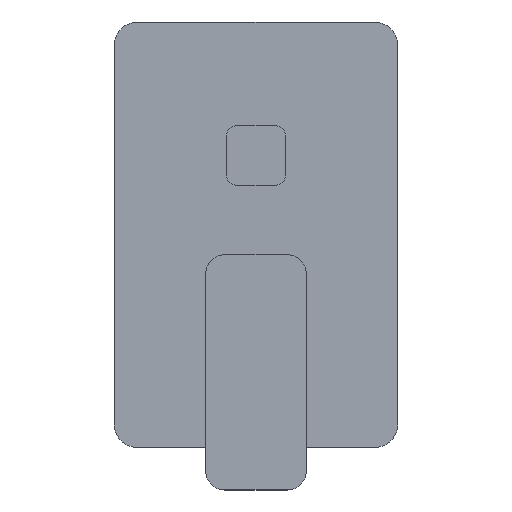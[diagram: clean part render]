
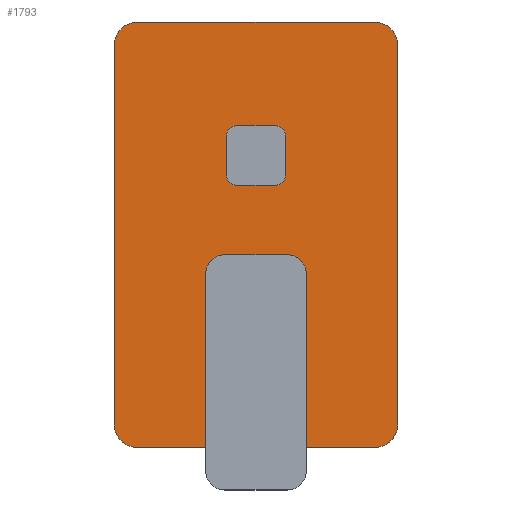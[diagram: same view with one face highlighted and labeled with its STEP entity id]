
A CAD part, top view. The second image highlights one B-rep face of the part: STEP entity #1793.
In plain terms, the highlighted planar face has unit normal (0, 0, 1).
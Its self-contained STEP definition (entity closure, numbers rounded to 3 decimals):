
#19=FACE_BOUND('',#512,.T.);
#20=FACE_BOUND('',#513,.T.);
#98=LINE('',#2826,#246);
#101=LINE('',#2832,#249);
#102=LINE('',#2836,#250);
#103=LINE('',#2840,#251);
#246=VECTOR('',#2261,10.);
#249=VECTOR('',#2266,10.);
#250=VECTOR('',#2269,10.);
#251=VECTOR('',#2272,10.);
#412=FACE_OUTER_BOUND('',#511,.T.);
#511=EDGE_LOOP('',(#1286,#1287,#1288,#1289,#1290,#1291,#1292,#1293));
#512=EDGE_LOOP('',(#1294,#1295));
#513=EDGE_LOOP('',(#1296,#1297));
#615=CIRCLE('',#1938,10.5);
#616=CIRCLE('',#1939,10.5);
#618=CIRCLE('',#1942,10.);
#619=CIRCLE('',#1945,10.);
#620=CIRCLE('',#1946,10.);
#621=CIRCLE('',#1947,10.);
#622=CIRCLE('',#1948,21.);
#623=CIRCLE('',#1949,21.);
#735=VERTEX_POINT('',#2810);
#736=VERTEX_POINT('',#2812);
#739=VERTEX_POINT('',#2819);
#740=VERTEX_POINT('',#2821);
#741=VERTEX_POINT('',#2825);
#743=VERTEX_POINT('',#2831);
#744=VERTEX_POINT('',#2833);
#745=VERTEX_POINT('',#2835);
#746=VERTEX_POINT('',#2837);
#747=VERTEX_POINT('',#2839);
#748=VERTEX_POINT('',#2842);
#749=VERTEX_POINT('',#2843);
#941=EDGE_CURVE('',#736,#735,#615,.T.);
#942=EDGE_CURVE('',#735,#736,#616,.T.);
#945=EDGE_CURVE('',#739,#740,#618,.T.);
#947=EDGE_CURVE('',#740,#741,#98,.T.);
#950=EDGE_CURVE('',#743,#739,#101,.T.);
#951=EDGE_CURVE('',#744,#743,#619,.T.);
#952=EDGE_CURVE('',#745,#744,#102,.T.);
#953=EDGE_CURVE('',#746,#745,#620,.T.);
#954=EDGE_CURVE('',#747,#746,#103,.T.);
#955=EDGE_CURVE('',#741,#747,#621,.T.);
#956=EDGE_CURVE('',#748,#749,#622,.T.);
#957=EDGE_CURVE('',#749,#748,#623,.T.);
#1286=ORIENTED_EDGE('',*,*,#945,.F.);
#1287=ORIENTED_EDGE('',*,*,#950,.F.);
#1288=ORIENTED_EDGE('',*,*,#951,.F.);
#1289=ORIENTED_EDGE('',*,*,#952,.F.);
#1290=ORIENTED_EDGE('',*,*,#953,.F.);
#1291=ORIENTED_EDGE('',*,*,#954,.F.);
#1292=ORIENTED_EDGE('',*,*,#955,.F.);
#1293=ORIENTED_EDGE('',*,*,#947,.F.);
#1294=ORIENTED_EDGE('',*,*,#941,.T.);
#1295=ORIENTED_EDGE('',*,*,#942,.T.);
#1296=ORIENTED_EDGE('',*,*,#956,.T.);
#1297=ORIENTED_EDGE('',*,*,#957,.T.);
#1659=PLANE('',#1944);
#1793=ADVANCED_FACE('',(#412,#19,#20),#1659,.F.);
#1938=AXIS2_PLACEMENT_3D('',#2813,#2247,#2248);
#1939=AXIS2_PLACEMENT_3D('',#2814,#2249,#2250);
#1942=AXIS2_PLACEMENT_3D('',#2822,#2256,#2257);
#1944=AXIS2_PLACEMENT_3D('',#2830,#2264,#2265);
#1945=AXIS2_PLACEMENT_3D('',#2834,#2267,#2268);
#1946=AXIS2_PLACEMENT_3D('',#2838,#2270,#2271);
#1947=AXIS2_PLACEMENT_3D('',#2841,#2273,#2274);
#1948=AXIS2_PLACEMENT_3D('',#2844,#2275,#2276);
#1949=AXIS2_PLACEMENT_3D('',#2845,#2277,#2278);
#2247=DIRECTION('center_axis',(0.,0.,-1.));
#2248=DIRECTION('ref_axis',(1.,0.,0.));
#2249=DIRECTION('center_axis',(0.,0.,-1.));
#2250=DIRECTION('ref_axis',(1.,0.,0.));
#2256=DIRECTION('center_axis',(0.,0.,-1.));
#2257=DIRECTION('ref_axis',(-0.707,-0.707,0.));
#2261=DIRECTION('',(0.,1.,0.));
#2264=DIRECTION('center_axis',(0.,0.,-1.));
#2265=DIRECTION('ref_axis',(-1.,0.,0.));
#2266=DIRECTION('',(-1.,0.,0.));
#2267=DIRECTION('center_axis',(0.,0.,-1.));
#2268=DIRECTION('ref_axis',(0.707,-0.707,0.));
#2269=DIRECTION('',(0.,-1.,0.));
#2270=DIRECTION('center_axis',(0.,0.,-1.));
#2271=DIRECTION('ref_axis',(0.707,0.707,0.));
#2272=DIRECTION('',(1.,0.,0.));
#2273=DIRECTION('center_axis',(0.,0.,-1.));
#2274=DIRECTION('ref_axis',(-0.707,0.707,0.));
#2275=DIRECTION('center_axis',(0.,0.,-1.));
#2276=DIRECTION('ref_axis',(0.,1.,0.));
#2277=DIRECTION('center_axis',(0.,0.,-1.));
#2278=DIRECTION('ref_axis',(0.,1.,0.));
#2810=CARTESIAN_POINT('',(13.5,63.5,8.));
#2812=CARTESIAN_POINT('',(34.5,63.5,8.));
#2813=CARTESIAN_POINT('Origin',(24.,63.5,8.));
#2814=CARTESIAN_POINT('Origin',(24.,63.5,8.));
#2819=CARTESIAN_POINT('',(-26.,-60.,8.));
#2821=CARTESIAN_POINT('',(-36.,-50.,8.));
#2822=CARTESIAN_POINT('Origin',(-26.,-50.,8.));
#2825=CARTESIAN_POINT('',(-36.,110.,8.));
#2826=CARTESIAN_POINT('',(-36.,-60.,8.));
#2830=CARTESIAN_POINT('Origin',(24.,30.,8.));
#2831=CARTESIAN_POINT('',(74.,-60.,8.));
#2832=CARTESIAN_POINT('',(84.,-60.,8.));
#2833=CARTESIAN_POINT('',(84.,-50.,8.));
#2834=CARTESIAN_POINT('Origin',(74.,-50.,8.));
#2835=CARTESIAN_POINT('',(84.,110.,8.));
#2836=CARTESIAN_POINT('',(84.,120.,8.));
#2837=CARTESIAN_POINT('',(74.,120.,8.));
#2838=CARTESIAN_POINT('Origin',(74.,110.,8.));
#2839=CARTESIAN_POINT('',(-26.,120.,8.));
#2840=CARTESIAN_POINT('',(-36.,120.,8.));
#2841=CARTESIAN_POINT('Origin',(-26.,110.,8.));
#2842=CARTESIAN_POINT('',(24.,21.,8.));
#2843=CARTESIAN_POINT('',(24.,-21.,8.));
#2844=CARTESIAN_POINT('Origin',(24.,0.,8.));
#2845=CARTESIAN_POINT('Origin',(24.,0.,8.));
